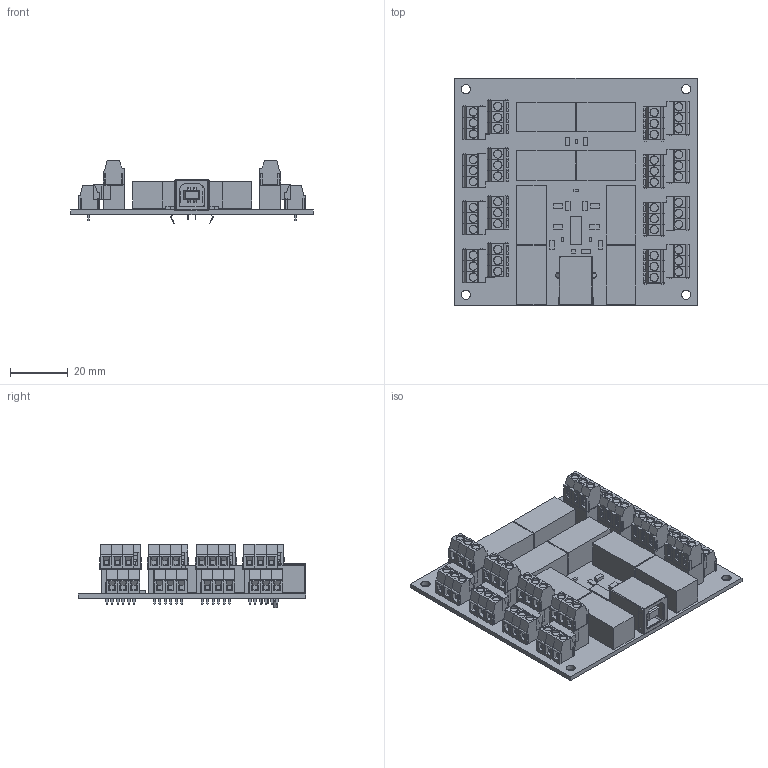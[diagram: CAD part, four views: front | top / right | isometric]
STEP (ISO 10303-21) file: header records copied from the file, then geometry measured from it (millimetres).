
FILE_DESCRIPTION(('Open CASCADE Model'),'2;1');
FILE_NAME('Open CASCADE Shape Model','2010-10-27T12:06:17',('Author'),( 'Open CASCADE'),'Open CASCADE STEP processor 6.2','Open CASCADE 6.2' ,'Unknown');
FILE_SCHEMA(('AUTOMOTIVE_DESIGN { 1 0 10303 214 1 1 1 1 }'));
Length unit declared in the file: millimetre
Products named in the file (68): PCB; Board; C1; 489473088; Extruded; U2; 489482176; U1; 489470400; R1; 489472704; R2; Q4; 489472448; Q3; Q2; Q1; K8; 489473856; K7; K6; 489485504; K5; K4; K3; K2; K1; D4; 489480128; D3; D2; D1; C2; 489489216; C3; C4; 489472960; C5; J2; 20020327-d02_asm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
Assembly tree (127 placements, depth 4):
  PCB
    Board
    C1
      489473088
        Extruded
    U2
      489482176
        Extruded
    U1
      489470400
        Extruded
    R1
      489472704
        Extruded
    R2
      489472704
        Extruded
    Q4
      489472448
        Extruded
    Q3
      489472448
        Extruded
    Q2
      489472448
        Extruded
    Q1
      489472448
        Extruded
    K8
      489473856
        Extruded
    K7
      489473856
        Extruded
    K6
      489485504
        Extruded
    K5
      489485504
        Extruded
    K4
      489485504
        Extruded
    K3
      489485504
        Extruded
    K2
      489473856
        Extruded
    K1
      489473856
        Extruded
    D4
      489480128
        Extruded
    D3
      489480128
        Extruded
    D2
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Bounding box: 83.82 x 78.74 x 21.84 mm (x, y, z)
Volume: 47966 mm3; surface area: 52748.5 mm2
Topology: 235 solids, 235 shells, 8203 faces, 21283 edges, 13640 vertices
Faces by surface type: plane 6827, cylinder 1246, cone 130
Full cylindrical faces by diameter (mm): 0.965 x4, 1.067 x64, 1.321 x48, 2.184 x2, 3.175 x4
Entity records: 41339 total; most frequent: CARTESIAN_POINT 7369, DIRECTION 6248, LINE 3762, VECTOR 3762, ORIENTED_EDGE 3140, PCURVE 3140, DEFINITIONAL_REPRESENTATION 3140, EDGE_CURVE 1570
